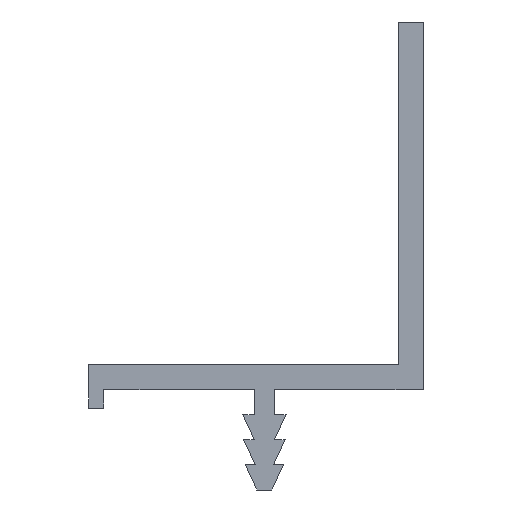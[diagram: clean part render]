
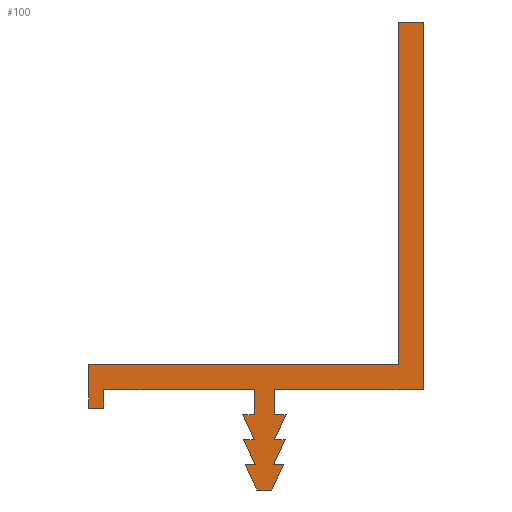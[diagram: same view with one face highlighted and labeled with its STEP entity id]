
A CAD part, left-side view. The second image highlights one B-rep face of the part: STEP entity #100.
In plain terms, the highlighted planar face has unit normal (-1, 0, 0).
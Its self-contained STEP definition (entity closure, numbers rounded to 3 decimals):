
#100 = ADVANCED_FACE( '', ( #152 ), #153, .F. );
#152 = FACE_OUTER_BOUND( '', #204, .T. );
#153 = PLANE( '', #205 );
#204 = EDGE_LOOP( '', ( #401, #402, #403, #404, #405, #406, #407, #408, #409, #410, #411, #412, #413, #414, #415, #416, #417, #418, #419, #420, #421, #422, #423, #424 ) );
#205 = AXIS2_PLACEMENT_3D( '', #425, #426, #427 );
#401 = ORIENTED_EDGE( '', *, *, #499, .F. );
#402 = ORIENTED_EDGE( '', *, *, #430, .F. );
#403 = ORIENTED_EDGE( '', *, *, #434, .F. );
#404 = ORIENTED_EDGE( '', *, *, #437, .F. );
#405 = ORIENTED_EDGE( '', *, *, #440, .F. );
#406 = ORIENTED_EDGE( '', *, *, #443, .F. );
#407 = ORIENTED_EDGE( '', *, *, #446, .F. );
#408 = ORIENTED_EDGE( '', *, *, #449, .F. );
#409 = ORIENTED_EDGE( '', *, *, #452, .F. );
#410 = ORIENTED_EDGE( '', *, *, #455, .F. );
#411 = ORIENTED_EDGE( '', *, *, #458, .F. );
#412 = ORIENTED_EDGE( '', *, *, #461, .F. );
#413 = ORIENTED_EDGE( '', *, *, #464, .F. );
#414 = ORIENTED_EDGE( '', *, *, #467, .F. );
#415 = ORIENTED_EDGE( '', *, *, #470, .F. );
#416 = ORIENTED_EDGE( '', *, *, #473, .F. );
#417 = ORIENTED_EDGE( '', *, *, #476, .F. );
#418 = ORIENTED_EDGE( '', *, *, #479, .F. );
#419 = ORIENTED_EDGE( '', *, *, #482, .F. );
#420 = ORIENTED_EDGE( '', *, *, #485, .F. );
#421 = ORIENTED_EDGE( '', *, *, #488, .F. );
#422 = ORIENTED_EDGE( '', *, *, #491, .F. );
#423 = ORIENTED_EDGE( '', *, *, #494, .F. );
#424 = ORIENTED_EDGE( '', *, *, #497, .F. );
#425 = CARTESIAN_POINT( '', ( 0., 0., 0. ) );
#426 = DIRECTION( '', ( 1., 0., 0. ) );
#427 = DIRECTION( '', ( 0., 0., -1. ) );
#430 = EDGE_CURVE( '', #503, #505, #506, .T. );
#434 = EDGE_CURVE( '', #510, #503, #512, .T. );
#437 = EDGE_CURVE( '', #515, #510, #517, .T. );
#440 = EDGE_CURVE( '', #520, #515, #522, .T. );
#443 = EDGE_CURVE( '', #525, #520, #527, .T. );
#446 = EDGE_CURVE( '', #530, #525, #532, .T. );
#449 = EDGE_CURVE( '', #535, #530, #537, .T. );
#452 = EDGE_CURVE( '', #540, #535, #542, .T. );
#455 = EDGE_CURVE( '', #545, #540, #547, .T. );
#458 = EDGE_CURVE( '', #550, #545, #552, .T. );
#461 = EDGE_CURVE( '', #555, #550, #557, .T. );
#464 = EDGE_CURVE( '', #560, #555, #562, .T. );
#467 = EDGE_CURVE( '', #565, #560, #567, .T. );
#470 = EDGE_CURVE( '', #570, #565, #572, .T. );
#473 = EDGE_CURVE( '', #575, #570, #577, .T. );
#476 = EDGE_CURVE( '', #580, #575, #582, .T. );
#479 = EDGE_CURVE( '', #585, #580, #587, .T. );
#482 = EDGE_CURVE( '', #590, #585, #592, .T. );
#485 = EDGE_CURVE( '', #595, #590, #597, .T. );
#488 = EDGE_CURVE( '', #600, #595, #602, .T. );
#491 = EDGE_CURVE( '', #605, #600, #607, .T. );
#494 = EDGE_CURVE( '', #610, #605, #612, .T. );
#497 = EDGE_CURVE( '', #615, #610, #617, .T. );
#499 = EDGE_CURVE( '', #505, #615, #619, .T. );
#503 = VERTEX_POINT( '', #624 );
#505 = VERTEX_POINT( '', #627 );
#506 = LINE( '', #628, #629 );
#510 = VERTEX_POINT( '', #635 );
#512 = LINE( '', #638, #639 );
#515 = VERTEX_POINT( '', #643 );
#517 = LINE( '', #646, #647 );
#520 = VERTEX_POINT( '', #651 );
#522 = LINE( '', #654, #655 );
#525 = VERTEX_POINT( '', #659 );
#527 = LINE( '', #662, #663 );
#530 = VERTEX_POINT( '', #667 );
#532 = LINE( '', #670, #671 );
#535 = VERTEX_POINT( '', #675 );
#537 = LINE( '', #678, #679 );
#540 = VERTEX_POINT( '', #683 );
#542 = LINE( '', #686, #687 );
#545 = VERTEX_POINT( '', #691 );
#547 = LINE( '', #694, #695 );
#550 = VERTEX_POINT( '', #699 );
#552 = LINE( '', #702, #703 );
#555 = VERTEX_POINT( '', #707 );
#557 = LINE( '', #710, #711 );
#560 = VERTEX_POINT( '', #715 );
#562 = LINE( '', #718, #719 );
#565 = VERTEX_POINT( '', #723 );
#567 = LINE( '', #726, #727 );
#570 = VERTEX_POINT( '', #731 );
#572 = LINE( '', #734, #735 );
#575 = VERTEX_POINT( '', #739 );
#577 = LINE( '', #742, #743 );
#580 = VERTEX_POINT( '', #747 );
#582 = LINE( '', #750, #751 );
#585 = VERTEX_POINT( '', #755 );
#587 = LINE( '', #758, #759 );
#590 = VERTEX_POINT( '', #763 );
#592 = LINE( '', #766, #767 );
#595 = VERTEX_POINT( '', #771 );
#597 = LINE( '', #774, #775 );
#600 = VERTEX_POINT( '', #779 );
#602 = LINE( '', #782, #783 );
#605 = VERTEX_POINT( '', #787 );
#607 = LINE( '', #790, #791 );
#610 = VERTEX_POINT( '', #795 );
#612 = LINE( '', #798, #799 );
#615 = VERTEX_POINT( '', #803 );
#617 = LINE( '', #806, #807 );
#619 = LINE( '', #810, #811 );
#624 = CARTESIAN_POINT( '', ( 0., 1.5, 0. ) );
#627 = CARTESIAN_POINT( '', ( 0., 0., 0. ) );
#628 = CARTESIAN_POINT( '', ( 0., 1.5, 0. ) );
#629 = VECTOR( '', #814, 1. );
#635 = CARTESIAN_POINT( '', ( 0., 1.5, -20.5 ) );
#638 = CARTESIAN_POINT( '', ( 0., 1.5, -20.5 ) );
#639 = VECTOR( '', #818, 1. );
#643 = CARTESIAN_POINT( '', ( 0., 20., -20.5 ) );
#646 = CARTESIAN_POINT( '', ( 0., 20., -20.5 ) );
#647 = VECTOR( '', #821, 1. );
#651 = CARTESIAN_POINT( '', ( 0., 20., -23.1 ) );
#654 = CARTESIAN_POINT( '', ( 0., 20., -23.1 ) );
#655 = VECTOR( '', #824, 1. );
#659 = CARTESIAN_POINT( '', ( 0., 19.1, -23.1 ) );
#662 = CARTESIAN_POINT( '', ( 0., 19.1, -23.1 ) );
#663 = VECTOR( '', #827, 1. );
#667 = CARTESIAN_POINT( '', ( 0., 19.1, -22. ) );
#670 = CARTESIAN_POINT( '', ( 0., 19.1, -22. ) );
#671 = VECTOR( '', #830, 1. );
#675 = CARTESIAN_POINT( '', ( 0., 10.1, -22. ) );
#678 = CARTESIAN_POINT( '', ( 0., 10.1, -22. ) );
#679 = VECTOR( '', #833, 1. );
#683 = CARTESIAN_POINT( '', ( 0., 10.1, -23.5 ) );
#686 = CARTESIAN_POINT( '', ( 0., 10.1, -23.5 ) );
#687 = VECTOR( '', #836, 1. );
#691 = CARTESIAN_POINT( '', ( 0., 10.8, -23.5 ) );
#694 = CARTESIAN_POINT( '', ( 0., 10.8, -23.5 ) );
#695 = VECTOR( '', #839, 1. );
#699 = CARTESIAN_POINT( '', ( 0., 10.1, -25. ) );
#702 = CARTESIAN_POINT( '', ( 0., 10.1, -25. ) );
#703 = VECTOR( '', #842, 1. );
#707 = CARTESIAN_POINT( '', ( 0., 10.75, -25. ) );
#710 = CARTESIAN_POINT( '', ( 0., 10.75, -25. ) );
#711 = VECTOR( '', #845, 1. );
#715 = CARTESIAN_POINT( '', ( 0., 10.05, -26.5 ) );
#718 = CARTESIAN_POINT( '', ( 0., 10.05, -26.5 ) );
#719 = VECTOR( '', #848, 1. );
#723 = CARTESIAN_POINT( '', ( 0., 10.65, -26.5 ) );
#726 = CARTESIAN_POINT( '', ( 0., 10.65, -26.5 ) );
#727 = VECTOR( '', #851, 1. );
#731 = CARTESIAN_POINT( '', ( 0., 9.95, -28. ) );
#734 = CARTESIAN_POINT( '', ( 0., 9.95, -28. ) );
#735 = VECTOR( '', #854, 1. );
#739 = CARTESIAN_POINT( '', ( 0., 9.05, -28. ) );
#742 = CARTESIAN_POINT( '', ( 0., 9.05, -28. ) );
#743 = VECTOR( '', #857, 1. );
#747 = CARTESIAN_POINT( '', ( 0., 8.35, -26.5 ) );
#750 = CARTESIAN_POINT( '', ( 0., 8.35, -26.5 ) );
#751 = VECTOR( '', #860, 1. );
#755 = CARTESIAN_POINT( '', ( 0., 8.95, -26.5 ) );
#758 = CARTESIAN_POINT( '', ( 0., 8.95, -26.5 ) );
#759 = VECTOR( '', #863, 1. );
#763 = CARTESIAN_POINT( '', ( 0., 8.25, -25. ) );
#766 = CARTESIAN_POINT( '', ( 0., 8.25, -25. ) );
#767 = VECTOR( '', #866, 1. );
#771 = CARTESIAN_POINT( '', ( 0., 8.9, -25. ) );
#774 = CARTESIAN_POINT( '', ( 0., 8.9, -25. ) );
#775 = VECTOR( '', #869, 1. );
#779 = CARTESIAN_POINT( '', ( 0., 8.2, -23.5 ) );
#782 = CARTESIAN_POINT( '', ( 0., 8.2, -23.5 ) );
#783 = VECTOR( '', #872, 1. );
#787 = CARTESIAN_POINT( '', ( 0., 8.9, -23.5 ) );
#790 = CARTESIAN_POINT( '', ( 0., 8.9, -23.5 ) );
#791 = VECTOR( '', #875, 1. );
#795 = CARTESIAN_POINT( '', ( 0., 8.9, -22. ) );
#798 = CARTESIAN_POINT( '', ( 0., 8.9, -22. ) );
#799 = VECTOR( '', #878, 1. );
#803 = CARTESIAN_POINT( '', ( 0., 0., -22. ) );
#806 = CARTESIAN_POINT( '', ( 0., 0., -22. ) );
#807 = VECTOR( '', #881, 1. );
#810 = CARTESIAN_POINT( '', ( 0., 0., 0. ) );
#811 = VECTOR( '', #883, 1. );
#814 = DIRECTION( '', ( 0., -1., 0. ) );
#818 = DIRECTION( '', ( 0., 0., 1. ) );
#821 = DIRECTION( '', ( 0., -1., 0. ) );
#824 = DIRECTION( '', ( 0., 0., 1. ) );
#827 = DIRECTION( '', ( 0., 1., 0. ) );
#830 = DIRECTION( '', ( 0., 0., -1. ) );
#833 = DIRECTION( '', ( 0., 1., 0. ) );
#836 = DIRECTION( '', ( 0., 0., 1. ) );
#839 = DIRECTION( '', ( 0., -1., 0. ) );
#842 = DIRECTION( '', ( 0., 0.423, 0.906 ) );
#845 = DIRECTION( '', ( 0., -1., 0. ) );
#848 = DIRECTION( '', ( 0., 0.423, 0.906 ) );
#851 = DIRECTION( '', ( 0., -1., 0. ) );
#854 = DIRECTION( '', ( 0., 0.423, 0.906 ) );
#857 = DIRECTION( '', ( 0., 1., 0. ) );
#860 = DIRECTION( '', ( 0., 0.423, -0.906 ) );
#863 = DIRECTION( '', ( 0., -1., 0. ) );
#866 = DIRECTION( '', ( 0., 0.423, -0.906 ) );
#869 = DIRECTION( '', ( 0., -1., 0. ) );
#872 = DIRECTION( '', ( 0., 0.423, -0.906 ) );
#875 = DIRECTION( '', ( 0., -1., 0. ) );
#878 = DIRECTION( '', ( 0., 0., -1. ) );
#881 = DIRECTION( '', ( 0., 1., 0. ) );
#883 = DIRECTION( '', ( 0., 0., -1. ) );
